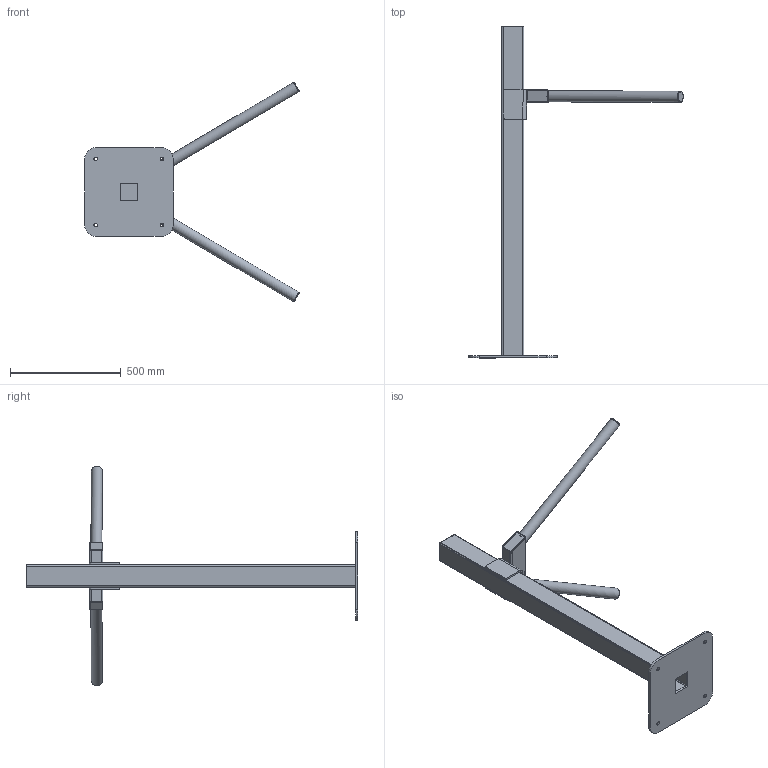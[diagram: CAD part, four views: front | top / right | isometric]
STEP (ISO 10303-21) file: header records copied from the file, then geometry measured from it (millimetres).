
FILE_DESCRIPTION(/* description */ (''),/* implementation_level */ '2;1');
FILE_NAME(/* name */ 'OG81_3D_Low.step',/* time_stamp */ '2025-11-11T16:02:53+02:00',/* author */ (''),/* organization */ (''),/* preprocessor_version */ 'ST-DEVELOPER v20.1',/* originating_system */ 'Autodesk Translation Framework v14.21.0.0',/* authorisation */ '');
FILE_SCHEMA (('AUTOMOTIVE_DESIGN { 1 0 10303 214 3 1 1 }'));
Length unit declared in the file: millimetre
Products named in the file (1): OG81_3D_Low
Bounding box: 970.99 x 1501 x 991.92 mm (x, y, z)
Volume: 4897824 mm3; surface area: 2151143.7 mm2
Topology: 11 solids, 11 shells, 116 faces, 282 edges, 188 vertices
Faces by surface type: plane 66, cylinder 50
Full cylindrical faces by diameter (mm): 16 x4, 40 x2, 47 x2, 50 x2
Entity records: 3492 total; most frequent: DIRECTION 616, CARTESIAN_POINT 587, ORIENTED_EDGE 564, EDGE_CURVE 282, AXIS2_PLACEMENT_3D 217, VERTEX_POINT 188, LINE 182, VECTOR 182
